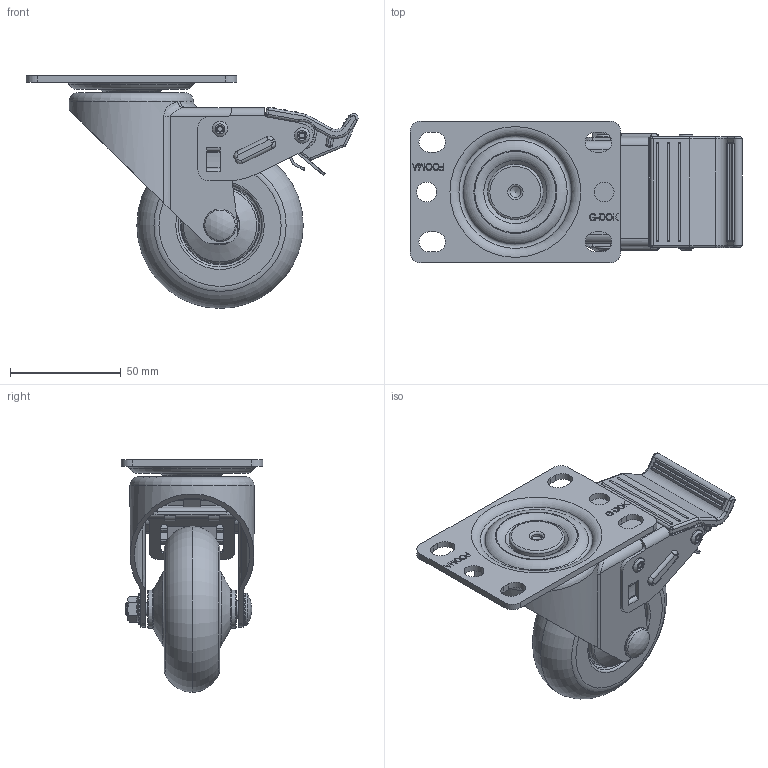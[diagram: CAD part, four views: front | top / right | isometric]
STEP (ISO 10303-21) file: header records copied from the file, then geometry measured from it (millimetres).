
FILE_DESCRIPTION(/* description */ (''),/* implementation_level */ '2;1');
FILE_NAME(/* name */ 'E:\홈피용도면\\X2\C2E0ADDCD648D398C774C9C0C6A9B3C4BA74\X0\\무소음캐스터\20160225-\X2\BB34C18CC74CCE90C2A4D130\X0\\GL-75-BSF.stp',/* time_stamp */ '2016-02-25T20:39:36+09:00',/* author */ ('장용하'),/* organization */ (''),/* preprocessor_version */ 'ST-DEVELOPER v15.6',/* originating_system */ 'Autodesk Inventor 2015',/* authorisation */ '');
FILE_SCHEMA (('AUTOMOTIVE_DESIGN { 1 0 10303 214 3 1 1 }'));
Length unit declared in the file: millimetre
Products named in the file (1): GL-75-BSF
Bounding box: 149.71 x 64 x 105 mm (x, y, z)
Volume: 162263.2 mm3; surface area: 76670.2 mm2
Topology: 3 solids, 4 shells, 1353 faces, 3717 edges, 2408 vertices
Faces by surface type: plane 874, cylinder 284, torus 94, bspline 42, cone 31, sphere 28
Full cylindrical faces by diameter (mm): 5 x3, 5.2 x5, 6 x2, 6.2 x1, 7 x5, 8 x1, 9 x2, 11 x1, 11.1 x1, 11.2 x1, 14 x1, 14.6 x1, 16 x1, 24.645 x1, 25 x1, 41 x1
Entity records: 44865 total; most frequent: CARTESIAN_POINT 10615, ORIENTED_EDGE 7152, DIRECTION 6930, EDGE_CURVE 3576, LINE 2634, VECTOR 2634, VERTEX_POINT 2390, AXIS2_PLACEMENT_3D 2148
